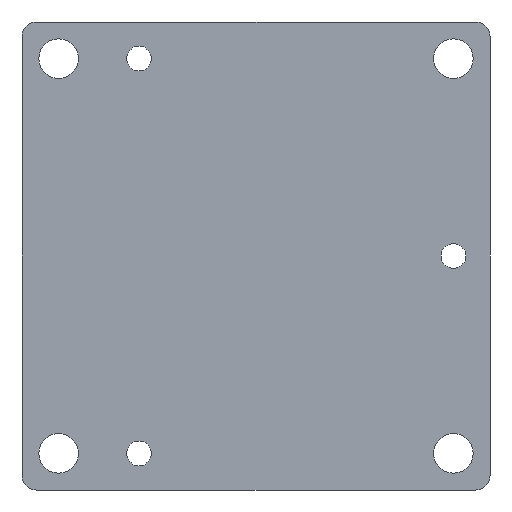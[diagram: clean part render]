
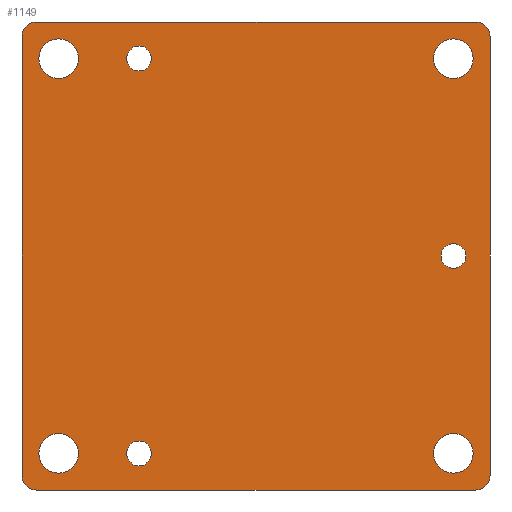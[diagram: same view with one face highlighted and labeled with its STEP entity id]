
A CAD part, front view. The second image highlights one B-rep face of the part: STEP entity #1149.
In plain terms, the highlighted planar face has unit normal (0, -1, 0).
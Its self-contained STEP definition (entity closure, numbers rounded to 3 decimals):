
#5 = CARTESIAN_POINT ( 'NONE',  ( 75., 0., 80. ) ) ;
#17 = CARTESIAN_POINT ( 'NONE',  ( 80., 0., -80. ) ) ;
#25 = PLANE ( 'NONE',  #1263 ) ;
#35 = EDGE_LOOP ( 'NONE', ( #1198 ) ) ;
#42 = AXIS2_PLACEMENT_3D ( 'NONE', #329, #1234, #854 ) ;
#46 = FACE_BOUND ( 'NONE', #1254, .T. ) ;
#71 = CARTESIAN_POINT ( 'NONE',  ( 80., 0., 80. ) ) ;
#72 = ORIENTED_EDGE ( 'NONE', *, *, #840, .T. ) ;
#83 = CIRCLE ( 'NONE', #42, 5. ) ;
#99 = LINE ( 'NONE', #616, #872 ) ;
#106 = AXIS2_PLACEMENT_3D ( 'NONE', #421, #117, #309 ) ;
#117 = DIRECTION ( 'NONE',  ( 0., -1., 0. ) ) ;
#133 = EDGE_CURVE ( 'NONE', #714, #337, #1206, .T. ) ;
#134 = EDGE_LOOP ( 'NONE', ( #1050 ) ) ;
#145 = AXIS2_PLACEMENT_3D ( 'NONE', #582, #1067, #987 ) ;
#149 = FACE_BOUND ( 'NONE', #835, .T. ) ;
#155 = ORIENTED_EDGE ( 'NONE', *, *, #862, .T. ) ;
#160 = CARTESIAN_POINT ( 'NONE',  ( 74.25, 0., 67.5 ) ) ;
#187 = EDGE_LOOP ( 'NONE', ( #1161 ) ) ;
#198 = EDGE_CURVE ( 'NONE', #272, #272, #540, .T. ) ;
#219 = FACE_BOUND ( 'NONE', #1028, .T. ) ;
#225 = DIRECTION ( 'NONE',  ( 0., -1., 0. ) ) ;
#228 = DIRECTION ( 'NONE',  ( 0., 0., -1. ) ) ;
#238 = EDGE_CURVE ( 'NONE', #714, #256, #306, .T. ) ;
#254 = CARTESIAN_POINT ( 'NONE',  ( 74.25, 0., -67.5 ) ) ;
#256 = VERTEX_POINT ( 'NONE', #1190 ) ;
#258 = CARTESIAN_POINT ( 'NONE',  ( -40., 0., -67.5 ) ) ;
#264 = AXIS2_PLACEMENT_3D ( 'NONE', #600, #225, #1021 ) ;
#272 = VERTEX_POINT ( 'NONE', #660 ) ;
#282 = CARTESIAN_POINT ( 'NONE',  ( -75., 0., 75. ) ) ;
#290 = CARTESIAN_POINT ( 'NONE',  ( -60.75, 0., -67.5 ) ) ;
#306 = CIRCLE ( 'NONE', #264, 5. ) ;
#309 = DIRECTION ( 'NONE',  ( 1., 0., 0. ) ) ;
#313 = EDGE_CURVE ( 'NONE', #883, #989, #83, .T. ) ;
#317 = EDGE_CURVE ( 'NONE', #569, #569, #810, .T. ) ;
#323 = EDGE_CURVE ( 'NONE', #975, #975, #892, .T. ) ;
#324 = DIRECTION ( 'NONE',  ( 0., 1., 0. ) ) ;
#329 = CARTESIAN_POINT ( 'NONE',  ( 75., 0., 75. ) ) ;
#337 = VERTEX_POINT ( 'NONE', #940 ) ;
#338 = LINE ( 'NONE', #546, #451 ) ;
#343 = FACE_BOUND ( 'NONE', #377, .T. ) ;
#362 = ORIENTED_EDGE ( 'NONE', *, *, #867, .T. ) ;
#373 = ORIENTED_EDGE ( 'NONE', *, *, #673, .T. ) ;
#374 = DIRECTION ( 'NONE',  ( 1., 0., 0. ) ) ;
#377 = EDGE_LOOP ( 'NONE', ( #72 ) ) ;
#401 = DIRECTION ( 'NONE',  ( 1., 0., 0. ) ) ;
#406 = DIRECTION ( 'NONE',  ( -1., 0., 0. ) ) ;
#412 = AXIS2_PLACEMENT_3D ( 'NONE', #1004, #1210, #401 ) ;
#413 = CIRCLE ( 'NONE', #1160, 6.75 ) ;
#419 = FACE_OUTER_BOUND ( 'NONE', #878, .T. ) ;
#421 = CARTESIAN_POINT ( 'NONE',  ( -75., 0., -75. ) ) ;
#451 = VECTOR ( 'NONE', #228, 1000. ) ;
#463 = DIRECTION ( 'NONE',  ( 0., 1., 0. ) ) ;
#492 = EDGE_CURVE ( 'NONE', #626, #989, #567, .T. ) ;
#539 = FACE_BOUND ( 'NONE', #187, .T. ) ;
#540 = CIRCLE ( 'NONE', #412, 6.75 ) ;
#546 = CARTESIAN_POINT ( 'NONE',  ( 80., 0., 80. ) ) ;
#562 = AXIS2_PLACEMENT_3D ( 'NONE', #930, #846, #1026 ) ;
#567 = LINE ( 'NONE', #71, #708 ) ;
#569 = VERTEX_POINT ( 'NONE', #675 ) ;
#571 = DIRECTION ( 'NONE',  ( 1., 0., 0. ) ) ;
#582 = CARTESIAN_POINT ( 'NONE',  ( 67.5, 0., 67.5 ) ) ;
#600 = CARTESIAN_POINT ( 'NONE',  ( 75., 0., -75. ) ) ;
#603 = CIRCLE ( 'NONE', #1204, 4.25 ) ;
#616 = CARTESIAN_POINT ( 'NONE',  ( -80., 0., 80. ) ) ;
#625 = FACE_BOUND ( 'NONE', #134, .T. ) ;
#626 = VERTEX_POINT ( 'NONE', #992 ) ;
#643 = FACE_BOUND ( 'NONE', #35, .T. ) ;
#656 = VERTEX_POINT ( 'NONE', #160 ) ;
#657 = VERTEX_POINT ( 'NONE', #1189 ) ;
#660 = CARTESIAN_POINT ( 'NONE',  ( -60.75, 0., 67.5 ) ) ;
#665 = AXIS2_PLACEMENT_3D ( 'NONE', #258, #1223, #1043 ) ;
#672 = DIRECTION ( 'NONE',  ( 1., 0., 0. ) ) ;
#673 = EDGE_CURVE ( 'NONE', #657, #337, #848, .T. ) ;
#675 = CARTESIAN_POINT ( 'NONE',  ( -35.75, 0., -67.5 ) ) ;
#690 = CARTESIAN_POINT ( 'NONE',  ( 71.75, 0., 0. ) ) ;
#692 = DIRECTION ( 'NONE',  ( 1., 0., 0. ) ) ;
#697 = DIRECTION ( 'NONE',  ( 0., 1., 0. ) ) ;
#702 = DIRECTION ( 'NONE',  ( 1., 0., 0. ) ) ;
#708 = VECTOR ( 'NONE', #672, 1000. ) ;
#709 = AXIS2_PLACEMENT_3D ( 'NONE', #282, #795, #702 ) ;
#714 = VERTEX_POINT ( 'NONE', #801 ) ;
#715 = CARTESIAN_POINT ( 'NONE',  ( 67.5, 0., 0. ) ) ;
#776 = ORIENTED_EDGE ( 'NONE', *, *, #993, .T. ) ;
#786 = ORIENTED_EDGE ( 'NONE', *, *, #238, .T. ) ;
#795 = DIRECTION ( 'NONE',  ( 0., -1., 0. ) ) ;
#801 = CARTESIAN_POINT ( 'NONE',  ( 75., 0., -80. ) ) ;
#810 = CIRCLE ( 'NONE', #665, 4.25 ) ;
#811 = AXIS2_PLACEMENT_3D ( 'NONE', #871, #865, #571 ) ;
#818 = CARTESIAN_POINT ( 'NONE',  ( 80., 0., 80. ) ) ;
#824 = ORIENTED_EDGE ( 'NONE', *, *, #492, .F. ) ;
#831 = ORIENTED_EDGE ( 'NONE', *, *, #928, .F. ) ;
#835 = EDGE_LOOP ( 'NONE', ( #776 ) ) ;
#837 = CARTESIAN_POINT ( 'NONE',  ( -80., 0., 75. ) ) ;
#840 = EDGE_CURVE ( 'NONE', #1145, #1145, #1039, .T. ) ;
#846 = DIRECTION ( 'NONE',  ( 0., 1., 0. ) ) ;
#848 = CIRCLE ( 'NONE', #106, 5. ) ;
#854 = DIRECTION ( 'NONE',  ( 1., 0., 0. ) ) ;
#862 = EDGE_CURVE ( 'NONE', #656, #656, #1246, .T. ) ;
#865 = DIRECTION ( 'NONE',  ( 0., 1., 0. ) ) ;
#867 = EDGE_CURVE ( 'NONE', #1178, #1178, #413, .T. ) ;
#871 = CARTESIAN_POINT ( 'NONE',  ( 67.5, 0., -67.5 ) ) ;
#872 = VECTOR ( 'NONE', #1087, 1000. ) ;
#878 = EDGE_LOOP ( 'NONE', ( #831, #373, #1181, #786, #963, #1152, #824, #1055 ) ) ;
#883 = VERTEX_POINT ( 'NONE', #980 ) ;
#892 = CIRCLE ( 'NONE', #562, 4.25 ) ;
#920 = EDGE_CURVE ( 'NONE', #626, #1171, #981, .T. ) ;
#928 = EDGE_CURVE ( 'NONE', #657, #1171, #99, .T. ) ;
#930 = CARTESIAN_POINT ( 'NONE',  ( -40., 0., 67.5 ) ) ;
#940 = CARTESIAN_POINT ( 'NONE',  ( -75., 0., -80. ) ) ;
#963 = ORIENTED_EDGE ( 'NONE', *, *, #1103, .F. ) ;
#964 = CARTESIAN_POINT ( 'NONE',  ( -35.75, 0., 67.5 ) ) ;
#975 = VERTEX_POINT ( 'NONE', #964 ) ;
#980 = CARTESIAN_POINT ( 'NONE',  ( 80., 0., 75. ) ) ;
#981 = CIRCLE ( 'NONE', #709, 5. ) ;
#987 = DIRECTION ( 'NONE',  ( 1., 0., 0. ) ) ;
#989 = VERTEX_POINT ( 'NONE', #5 ) ;
#992 = CARTESIAN_POINT ( 'NONE',  ( -75., 0., 80. ) ) ;
#993 = EDGE_CURVE ( 'NONE', #1278, #1278, #603, .T. ) ;
#1004 = CARTESIAN_POINT ( 'NONE',  ( -67.5, 0., 67.5 ) ) ;
#1021 = DIRECTION ( 'NONE',  ( 1., 0., 0. ) ) ;
#1023 = DIRECTION ( 'NONE',  ( 1., 0., 0. ) ) ;
#1026 = DIRECTION ( 'NONE',  ( 1., 0., 0. ) ) ;
#1028 = EDGE_LOOP ( 'NONE', ( #362 ) ) ;
#1039 = CIRCLE ( 'NONE', #811, 6.75 ) ;
#1043 = DIRECTION ( 'NONE',  ( 1., 0., 0. ) ) ;
#1050 = ORIENTED_EDGE ( 'NONE', *, *, #198, .T. ) ;
#1055 = ORIENTED_EDGE ( 'NONE', *, *, #920, .T. ) ;
#1067 = DIRECTION ( 'NONE',  ( 0., 1., 0. ) ) ;
#1087 = DIRECTION ( 'NONE',  ( 0., 0., 1. ) ) ;
#1103 = EDGE_CURVE ( 'NONE', #883, #256, #338, .T. ) ;
#1111 = VECTOR ( 'NONE', #406, 1000. ) ;
#1145 = VERTEX_POINT ( 'NONE', #254 ) ;
#1149 = ADVANCED_FACE ( 'NONE', ( #539, #643, #149, #46, #343, #219, #625, #419 ), #25, .F. ) ;
#1152 = ORIENTED_EDGE ( 'NONE', *, *, #313, .T. ) ;
#1160 = AXIS2_PLACEMENT_3D ( 'NONE', #1269, #463, #374 ) ;
#1161 = ORIENTED_EDGE ( 'NONE', *, *, #317, .T. ) ;
#1171 = VERTEX_POINT ( 'NONE', #837 ) ;
#1178 = VERTEX_POINT ( 'NONE', #290 ) ;
#1181 = ORIENTED_EDGE ( 'NONE', *, *, #133, .F. ) ;
#1189 = CARTESIAN_POINT ( 'NONE',  ( -80., 0., -75. ) ) ;
#1190 = CARTESIAN_POINT ( 'NONE',  ( 80., 0., -75. ) ) ;
#1198 = ORIENTED_EDGE ( 'NONE', *, *, #323, .T. ) ;
#1204 = AXIS2_PLACEMENT_3D ( 'NONE', #715, #697, #692 ) ;
#1206 = LINE ( 'NONE', #17, #1111 ) ;
#1210 = DIRECTION ( 'NONE',  ( 0., 1., 0. ) ) ;
#1223 = DIRECTION ( 'NONE',  ( 0., 1., 0. ) ) ;
#1234 = DIRECTION ( 'NONE',  ( 0., -1., 0. ) ) ;
#1246 = CIRCLE ( 'NONE', #145, 6.75 ) ;
#1254 = EDGE_LOOP ( 'NONE', ( #155 ) ) ;
#1263 = AXIS2_PLACEMENT_3D ( 'NONE', #818, #324, #1023 ) ;
#1269 = CARTESIAN_POINT ( 'NONE',  ( -67.5, 0., -67.5 ) ) ;
#1278 = VERTEX_POINT ( 'NONE', #690 ) ;
